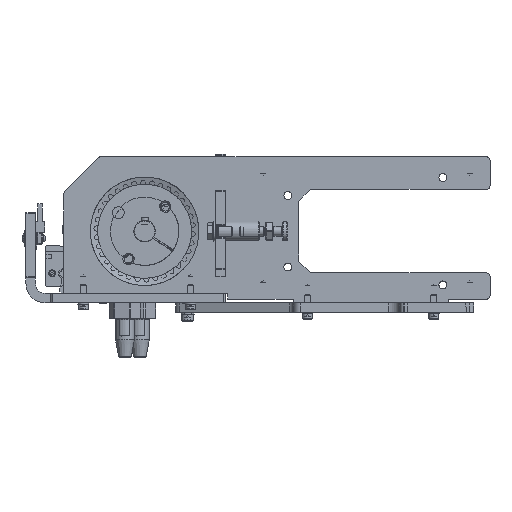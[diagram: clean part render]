
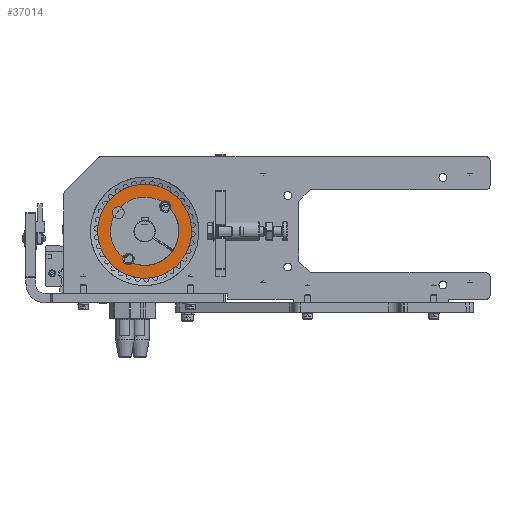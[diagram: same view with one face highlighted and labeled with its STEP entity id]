
A CAD part, left-side view. The second image highlights one B-rep face of the part: STEP entity #37014.
In plain terms, the highlighted planar face has unit normal (-1, 0, 0).
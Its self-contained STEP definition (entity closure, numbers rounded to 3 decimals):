
#2042=CIRCLE('',#39419,39.41);
#2117=CIRCLE('',#39501,28.64);
#2119=CIRCLE('',#39504,5.);
#2121=CIRCLE('',#39507,4.763);
#2126=CIRCLE('',#39515,28.64);
#2128=CIRCLE('',#39517,28.64);
#2129=CIRCLE('',#39519,4.763);
#3166=FACE_BOUND('',#7888,.T.);
#3939=PLANE('',#39526);
#5456=FACE_OUTER_BOUND('',#7887,.T.);
#7887=EDGE_LOOP('',(#27661));
#7888=EDGE_LOOP('',(#27662,#27663,#27664,#27665,#27666,#27667));
#17607=VERTEX_POINT('',#54515);
#17890=VERTEX_POINT('',#56520);
#17891=VERTEX_POINT('',#56521);
#17898=VERTEX_POINT('',#56563);
#17899=VERTEX_POINT('',#56564);
#17902=VERTEX_POINT('',#56582);
#17909=VERTEX_POINT('',#56620);
#21378=EDGE_CURVE('',#17607,#17607,#2042,.T.);
#21661=EDGE_CURVE('',#17890,#17891,#2117,.T.);
#21669=EDGE_CURVE('',#17898,#17899,#2119,.T.);
#21673=EDGE_CURVE('',#17890,#17902,#2121,.T.);
#21684=EDGE_CURVE('',#17909,#17899,#2126,.T.);
#21686=EDGE_CURVE('',#17898,#17902,#2128,.T.);
#21687=EDGE_CURVE('',#17909,#17891,#2129,.T.);
#27661=ORIENTED_EDGE('',*,*,#21378,.T.);
#27662=ORIENTED_EDGE('',*,*,#21687,.T.);
#27663=ORIENTED_EDGE('',*,*,#21661,.F.);
#27664=ORIENTED_EDGE('',*,*,#21673,.T.);
#27665=ORIENTED_EDGE('',*,*,#21686,.F.);
#27666=ORIENTED_EDGE('',*,*,#21669,.T.);
#27667=ORIENTED_EDGE('',*,*,#21684,.F.);
#37014=ADVANCED_FACE('',(#5456,#3166),#3939,.T.);
#39419=AXIS2_PLACEMENT_3D('',#54516,#43950,#43951);
#39501=AXIS2_PLACEMENT_3D('',#56522,#44114,#44115);
#39504=AXIS2_PLACEMENT_3D('',#56565,#44120,#44121);
#39507=AXIS2_PLACEMENT_3D('',#56583,#44126,#44127);
#39515=AXIS2_PLACEMENT_3D('',#56628,#44142,#44143);
#39517=AXIS2_PLACEMENT_3D('',#56630,#44146,#44147);
#39519=AXIS2_PLACEMENT_3D('',#56632,#44150,#44151);
#39526=AXIS2_PLACEMENT_3D('',#56639,#44164,#44165);
#43950=DIRECTION('center_axis',(-1.,0.,0.));
#43951=DIRECTION('ref_axis',(0.,1.,0.));
#44114=DIRECTION('center_axis',(-1.,0.,0.));
#44115=DIRECTION('ref_axis',(0.,1.,0.));
#44120=DIRECTION('center_axis',(1.,0.,0.));
#44121=DIRECTION('ref_axis',(0.,1.,0.));
#44126=DIRECTION('center_axis',(1.,0.,0.));
#44127=DIRECTION('ref_axis',(0.,-0.087,-0.996));
#44142=DIRECTION('center_axis',(-1.,0.,0.));
#44143=DIRECTION('ref_axis',(0.,1.,0.));
#44146=DIRECTION('center_axis',(-1.,0.,0.));
#44147=DIRECTION('ref_axis',(0.,1.,0.));
#44150=DIRECTION('center_axis',(1.,0.,0.));
#44151=DIRECTION('ref_axis',(0.,-0.087,0.996));
#44164=DIRECTION('center_axis',(-1.,0.,0.));
#44165=DIRECTION('ref_axis',(0.,1.,0.));
#54515=CARTESIAN_POINT('',(0.,-6.045,-38.944));
#54516=CARTESIAN_POINT('Origin',(0.,0.,0.));
#56520=CARTESIAN_POINT('',(0.,-7.026,-27.765));
#56521=CARTESIAN_POINT('',(0.,-7.026,27.765));
#56522=CARTESIAN_POINT('Origin',(0.,0.,0.));
#56563=CARTESIAN_POINT('',(0.,28.228,-4.838));
#56564=CARTESIAN_POINT('',(0.,28.228,4.838));
#56565=CARTESIAN_POINT('Origin',(0.,26.965,0.));
#56582=CARTESIAN_POINT('',(0.,2.098,-28.563));
#56583=CARTESIAN_POINT('Origin',(0.,-2.35,
-26.862));
#56620=CARTESIAN_POINT('',(0.,2.098,28.563));
#56628=CARTESIAN_POINT('Origin',(0.,0.,0.));
#56630=CARTESIAN_POINT('Origin',(0.,0.,0.));
#56632=CARTESIAN_POINT('Origin',(0.,-2.35,
26.862));
#56639=CARTESIAN_POINT('Origin',(0.,34.025,0.));
